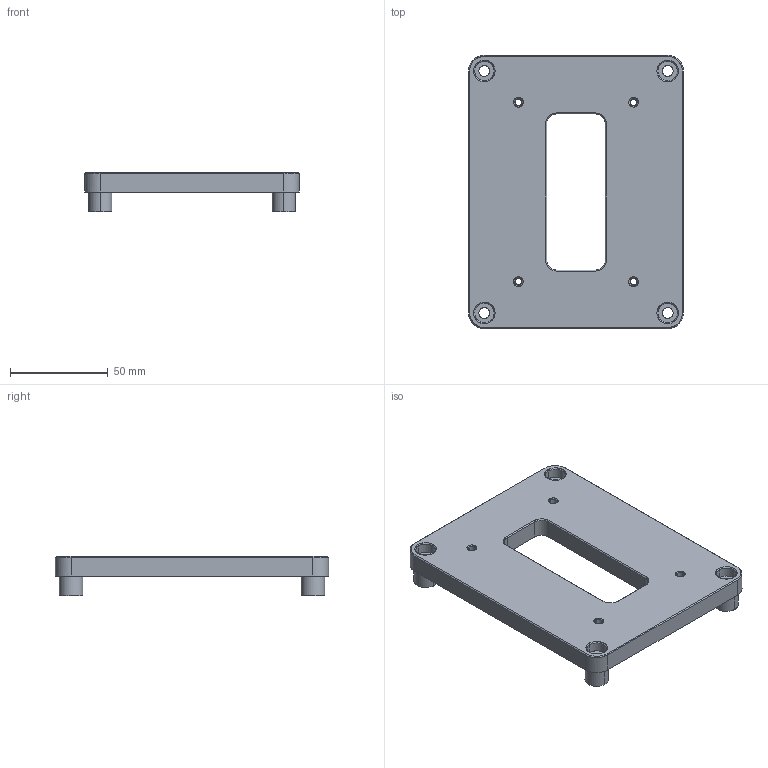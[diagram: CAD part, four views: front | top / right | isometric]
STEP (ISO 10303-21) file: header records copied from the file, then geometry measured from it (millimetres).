
FILE_DESCRIPTION( ( 'STEP AP214' ), '1' );
FILE_NAME( 'C:/Dokumente und Einstellungen/Administrator/Desktop/47 Kabelboxen/Distanzplatten/1/distanzplatte_gr1.stp', '2006-09-11T13:06:56', ( ' ' ), ( ' ' ), 'XStep 1.0', 'VISICAD', ' ' );
FILE_SCHEMA( ( 'automotive_design' ) );
Length unit declared in the file: millimetre
Products named in the file (176): 1; 2; 3; 4; 5; 6; 7; 8; 9; 10; 11; 12; 13; 14; 15; 16; 17; 18; 19; 20; 21; 22; 23; 24; 25; 26; 27; 28; 29; 30; 31; 32; 33; 34; 35; 36; 37; 38; 39; 40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
Bounding box: 110 x 140 x 20 mm (x, y, z)
Surface area: 41408.5 mm2 (no closed solid volume)
Topology: 0 solids, 180 shells, 180 faces, 812 edges, 804 vertices
Faces by surface type: bspline 136, plane 44
Entity records: 21688 total; most frequent: CARTESIAN_POINT 12248, ORIENTED_EDGE 804, EDGE_CURVE 804, VERTEX_POINT 804, DIRECTION 783, B_SPLINE_CURVE_WITH_KNOTS 461, LINE 343, VECTOR 343
